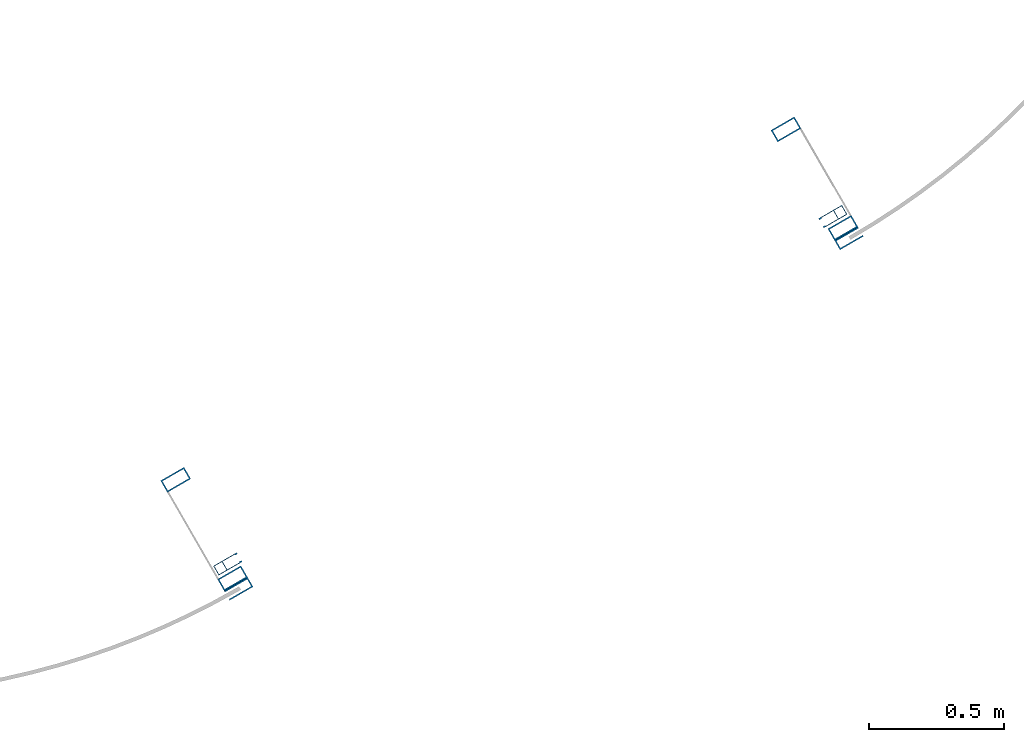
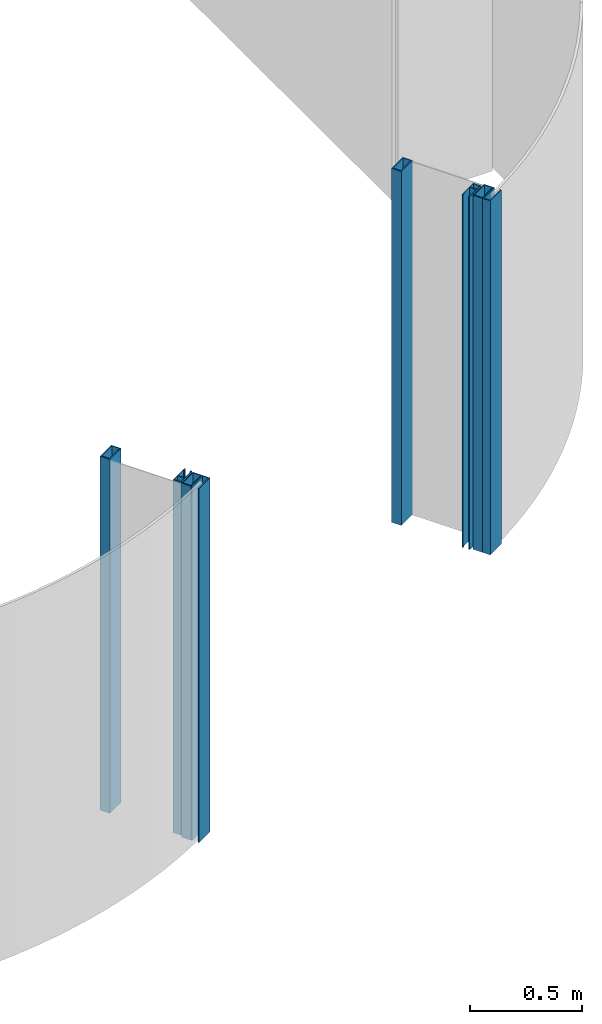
# One storey, part 3 of 11: 8 columns, 4 openings.
"""IFC2X3 building model written with IfcOpenShell, lengths in millimetres."""

from ifc_helpers import new_model, entity, si_unit, converted_unit, derived_unit, direction, frame, frame_2d, origin, origin_with_axes, origin_2d_with_axis, place, context, subcontext, project, spatial, rectangle, extrude, faceted_brep, source, transform, mapped, material, type_object, element, save


model = new_model("IFC2X3")

# Units and contexts
model_context = context("Model", 3, precision=0.01, world=frame((0.0, 4.29681676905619e-09, 0.0)), true_north=direction((4.01073788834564e-13, 1.0)))
plan_context = context("Plan", 3, precision=0.01, world=frame((0.0, 4.29681676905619e-09, 0.0)), true_north=direction((4.01073788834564e-13, 1.0)))
body_context = subcontext(model_context, "Body", "Model", "MODEL_VIEW")
ifc_project = project(units=[converted_unit("PLANEANGLEUNIT", "DEGREE", entity("IfcPositiveLengthMeasure", 0.0174532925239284), si_unit("PLANEANGLEUNIT", "RADIAN"), dimensions=[0, 0, 0, 0, 0, 0, 0]), si_unit("AREAUNIT", "SQUARE_METRE"), si_unit("LENGTHUNIT", "METRE", prefix="MILLI"), si_unit("MASSUNIT", "GRAM", prefix="KILO"), si_unit("POWERUNIT", "WATT"), si_unit("PRESSUREUNIT", "PASCAL"), si_unit("FORCEUNIT", "NEWTON", prefix="KILO"), si_unit("ELECTRICVOLTAGEUNIT", "VOLT"), si_unit("ELECTRICCURRENTUNIT", "AMPERE"), si_unit("THERMODYNAMICTEMPERATUREUNIT", "DEGREE_CELSIUS"), si_unit("TIMEUNIT", "SECOND"), si_unit("VOLUMEUNIT", "CUBIC_METRE"), derived_unit("LINEARVELOCITYUNIT", [(si_unit("LENGTHUNIT", "METRE"), 1), (si_unit("TIMEUNIT", "SECOND"), -1)]), derived_unit("VOLUMETRICFLOWRATEUNIT", [(si_unit("VOLUMEUNIT", "CUBIC_METRE"), 1), (si_unit("TIMEUNIT", "SECOND"), -1)]), derived_unit("THERMALTRANSMITTANCEUNIT", [(si_unit("POWERUNIT", "WATT"), 1), (si_unit("THERMODYNAMICTEMPERATUREUNIT", "KELVIN"), -1), (si_unit("AREAUNIT", "SQUARE_METRE"), -1)]), derived_unit("SOUNDPRESSUREUNIT", [(si_unit("PRESSUREUNIT", "PASCAL"), 1)])], contexts=[model_context, plan_context])

# Site, building, storey
site_placement = place(None, origin_with_axes())
site = spatial("IfcSite", under=ifc_project, at=site_placement, Name="ENGM", CompositionType="ELEMENT")
building_placement = place(site_placement, origin_with_axes())
building = spatial("IfcBuilding", under=site, at=building_placement, Name="TH", CompositionType="ELEMENT")
storey_placement = place(building_placement, frame((0.0, 0.0, 210900.0), z_axis=(0.0, 0.0, 1.0), x_axis=(1.0, 0.0, 0.0)))
storey = spatial("IfcBuildingStorey", under=building, at=storey_placement, Name="Nivå F", CompositionType="ELEMENT", Elevation=210900.0)

# Columns
ifc_material = material(Name="_NSW Stål")
column_type_1 = type_object("IfcColumnType", Name="A243 - Rullegardinskinner:A243 - Portskinne Book Shop", PredefinedType="COLUMN", material=ifc_material)
shared_shape_1 = source(origin(), body_context, "Body", "Brep", [
    faceted_brep([(-14.0, -100.0, 212830.0), (-20.0, -100.0, 212830.0), (-20.0, -100.0, 210900.0), (-14.0, -100.0, 210900.0), (-14.0, -90.0, 212830.0), (-14.0, -90.0, 210900.0), (-17.0, -90.0, 212830.0), (-17.0, -90.0, 210900.0), (-17.0, -38.0, 212830.0), (-17.0, -38.0, 210900.0), (17.0, -38.0, 212830.0), (17.0, -38.0, 210900.0), (17.0, -90.0, 212830.0), (17.0, -90.0, 210900.0), (14.0, -90.0, 212830.0), (14.0, -90.0, 210900.0), (14.0, -100.0, 212830.0), (14.0, -100.0, 210900.0), (20.0, -100.0, 212830.0), (20.0, -100.0, 210900.0), (20.0, 0.0, 212830.0), (20.0, 0.0, 210900.0), (-20.0, 0.0, 212830.0), (-20.0, 0.0, 210900.0), (-17.0, -3.0, 212830.0), (-17.0, -35.0, 212830.0), (-17.0, -35.0, 210900.0), (-17.0, -3.0, 210900.0), (17.0, -3.0, 212830.0), (17.0, -3.0, 210900.0), (17.0, -35.0, 212830.0), (17.0, -35.0, 210900.0)], [[[0, 1, 2, 3]], [[4, 0, 3, 5]], [[6, 4, 5, 7]], [[8, 6, 7, 9]], [[10, 8, 9, 11]], [[12, 10, 11, 13]], [[14, 12, 13, 15]], [[16, 14, 15, 17]], [[18, 16, 17, 19]], [[20, 18, 19, 21]], [[22, 20, 21, 23]], [[1, 22, 23, 2]], [[24, 25, 26, 27]], [[28, 24, 27, 29]], [[30, 28, 29, 31]], [[25, 30, 31, 26]], [[1, 0, 4, 6, 8, 10, 12, 14, 16, 18, 20, 22], [25, 24, 28, 30]], [[3, 2, 23, 21, 19, 17, 15, 13, 11, 9, 7, 5], [27, 26, 31, 29]]]),
])
column_1_placement = place(storey_placement, frame((908874.102285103, 478210.13855746, -210900.0), z_axis=(0.0, 0.0, 1.0), x_axis=(0.499999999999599, -0.86602540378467, 0.0)))
element("IfcColumn", 1, at=column_1_placement, inside=storey, type_object=column_type_1, material=ifc_material, Name="A243 - Rullegardinskinner:A243 - Portskinne Book Shop", ObjectType="A243 - Rullegardinskinner:A243 - Portskinne Book Shop", context=body_context, shape_type="MappedRepresentation", body=[
    mapped(shared_shape_1, transform((0.0, 0.0, 0.0), scale=1.0)),
])
column_type_2 = type_object("IfcColumnType", Name="A241 - Glassramme Book Shop:A241 - 100x40mm", PredefinedType="COLUMN", material=ifc_material)
shared_shape_2 = source(origin(), body_context, "Body", "Brep", [
    faceted_brep([(-20.0, 50.0, 212835.0), (-15.0, 50.0, 212835.0), (-15.0, 50.0, 210900.0), (-20.0, 50.0, 210900.0), (-15.0, -45.0, 212835.0), (-15.0, -45.0, 210900.0), (15.0, -45.0, 212835.0), (15.0, -45.0, 210900.0), (15.0, 50.0, 212835.0), (15.0, 50.0, 210900.0), (20.0, 50.0, 212835.0), (20.0, 50.0, 210900.0), (20.0, -50.0, 212835.0), (20.0, -50.0, 210900.0), (-20.0, -50.0, 212835.0), (-20.0, -50.0, 210900.0)], [[[0, 1, 2, 3]], [[1, 4, 5, 2]], [[4, 6, 7, 5]], [[6, 8, 9, 7]], [[8, 10, 11, 9]], [[10, 12, 13, 11]], [[12, 14, 15, 13]], [[14, 0, 3, 15]], [[1, 0, 14, 12, 10, 8, 6, 4]], [[3, 2, 5, 7, 9, 11, 13, 15]]]),
])
column_2_placement = place(storey_placement, frame((908890.455786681, 478104.15850772, -210900.0), z_axis=(0.0, 0.0, 1.0), x_axis=(0.499999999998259, -0.866025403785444, 0.0)))
element("IfcColumn", 2, at=column_2_placement, inside=storey, type_object=column_type_2, material=ifc_material, Name="A241 - Glassramme Book Shop:A241 - 100x40mm", ObjectType="A241 - Glassramme Book Shop:A241 - 100x40mm", context=body_context, shape_type="MappedRepresentation", body=[
    mapped(shared_shape_2, transform((0.0, 0.0, 0.0), scale=1.0)),
])

# Column, opening
column_type_3 = type_object("IfcColumnType", Name="B222 - HUP7:B222 - HUP 100x50x5", PredefinedType="COLUMN", material=ifc_material)
shared_shape_3 = source(origin(), body_context, "Body", "SweptSolid", [
    extrude(rectangle(XDim=1934.99999999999, YDim=100.0, at=frame_2d((1.73372427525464e-11, 0.0), x_axis=(1.0, 0.0))), frame((-25.0, 0.0, 211867.5), z_axis=(1.0, 0.0, 0.0), x_axis=(0.0, 0.0, -1.0)), (0.0, 0.0, 1.0), 50.0),
])
column_3_placement = place(storey_placement, frame((908657.956971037, 478506.858269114, -210900.0), z_axis=(0.0, 0.0, 1.0), x_axis=(-0.500000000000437, 0.866025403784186, 0.0)))
column_3 = element("IfcColumn", 3, at=column_3_placement, inside=storey, type_object=column_type_3, material=ifc_material, Name="B222 - HUP7:B222 - HUP 100x50x5", ObjectType="B222 - HUP7:B222 - HUP 100x50x5", context=body_context, shape_type="MappedRepresentation", body=[
    mapped(shared_shape_3, transform((0.0, 0.0, 0.0), scale=1.0)),
])
opening_1_placement = place(column_3_placement, frame((0.0, 0.0, 210900.0), z_axis=(0.0, 0.0, 1.0), x_axis=(-0.500000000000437, 0.866025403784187, 0.0)))
element("IfcOpeningElement", 4, at=opening_1_placement, cuts=column_3, Name="B222 - HUP7:B222 - HUP 100x50x5:1", ObjectType="Opening", context=body_context, shape_type="SweptSolid", body=[
    extrude(rectangle(XDim=90.0, YDim=39.9999999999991, at=origin_2d_with_axis()), frame((0.0, 0.0, 0.0), z_axis=(0.0, 0.0, 1.0), x_axis=(0.866025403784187, -0.500000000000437, 0.0)), (0.0, 0.0, 1.0), 1934.99999999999),
])

column_type_4 = type_object("IfcColumnType", Name="B222 - HUP7:B222 - HUP 100x50x5", PredefinedType="COLUMN", material=ifc_material)
shared_shape_4 = source(origin(), body_context, "Body", "SweptSolid", [
    extrude(rectangle(XDim=1934.99999999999, YDim=100.0, at=frame_2d((1.73372427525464e-11, 0.0), x_axis=(1.0, 0.0))), frame((-25.0, 0.0, 211867.5), z_axis=(1.0, 0.0, 0.0), x_axis=(0.0, 0.0, -1.0)), (0.0, 0.0, 1.0), 50.0),
])
column_4_placement = place(storey_placement, frame((908867.955786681, 478143.12965089, -210900.0), z_axis=(0.0, 0.0, 1.0), x_axis=(-0.500000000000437, 0.866025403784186, 0.0)))
column_4 = element("IfcColumn", 5, at=column_4_placement, inside=storey, type_object=column_type_4, material=ifc_material, Name="B222 - HUP7:B222 - HUP 100x50x5", ObjectType="B222 - HUP7:B222 - HUP 100x50x5", context=body_context, shape_type="MappedRepresentation", body=[
    mapped(shared_shape_4, transform((0.0, 0.0, 0.0), scale=1.0)),
])
opening_2_placement = place(column_4_placement, frame((0.0, 0.0, 210900.0), z_axis=(0.0, 0.0, 1.0), x_axis=(-0.500000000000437, 0.866025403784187, 0.0)))
element("IfcOpeningElement", 6, at=opening_2_placement, cuts=column_4, Name="B222 - HUP7:B222 - HUP 100x50x5:1", ObjectType="Opening", context=body_context, shape_type="SweptSolid", body=[
    extrude(rectangle(XDim=90.0, YDim=39.9999999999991, at=origin_2d_with_axis()), frame((0.0, 0.0, 1935.0), z_axis=(0.0, 0.0, -1.0), x_axis=(-0.866025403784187, 0.500000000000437, 0.0)), (0.0, 0.0, 1.0), 1934.99999999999),
])

column_type_5 = type_object("IfcColumnType", Name="B222 - HUP7:B222 - HUP 100x50x5", PredefinedType="COLUMN", material=ifc_material)
column_5_placement = place(storey_placement, frame((906404.93565808, 477213.20565369, -210900.0), z_axis=(0.0, 0.0, 1.0), x_axis=(-0.500000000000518, 0.86602540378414, 0.0)))
column_5 = element("IfcColumn", 7, at=column_5_placement, inside=storey, type_object=column_type_5, material=ifc_material, Name="B222 - HUP7:B222 - HUP 100x50x5", ObjectType="B222 - HUP7:B222 - HUP 100x50x5", context=body_context, shape_type="MappedRepresentation", body=[
    mapped(shared_shape_4, transform((0.0, 0.0, 0.0), scale=1.0)),
])
opening_3_placement = place(column_5_placement, frame((0.0, 0.0, 210900.0), z_axis=(0.0, 0.0, 1.0), x_axis=(-0.500000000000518, 0.86602540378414, 0.0)))
element("IfcOpeningElement", 8, at=opening_3_placement, cuts=column_5, Name="B222 - HUP7:B222 - HUP 100x50x5:1", ObjectType="Opening", context=body_context, shape_type="SweptSolid", body=[
    extrude(rectangle(XDim=90.0, YDim=39.9999999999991, at=origin_2d_with_axis()), frame((0.0, 0.0, 1935.0), z_axis=(0.0, 0.0, -1.0), x_axis=(-0.86602540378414, 0.500000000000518, 0.0)), (0.0, 0.0, 1.0), 1934.99999999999),
])

column_type_6 = type_object("IfcColumnType", Name="B222 - HUP7:B222 - HUP 100x50x5", PredefinedType="COLUMN", material=ifc_material)
column_6_placement = place(storey_placement, frame((906614.934473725, 476849.477035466, -210900.0), z_axis=(0.0, 0.0, 1.0), x_axis=(-0.500000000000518, 0.86602540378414, 0.0)))
column_6 = element("IfcColumn", 9, at=column_6_placement, inside=storey, type_object=column_type_6, material=ifc_material, Name="B222 - HUP7:B222 - HUP 100x50x5", ObjectType="B222 - HUP7:B222 - HUP 100x50x5", context=body_context, shape_type="MappedRepresentation", body=[
    mapped(shared_shape_4, transform((0.0, 0.0, 0.0), scale=1.0)),
])
opening_4_placement = place(column_6_placement, frame((0.0, 0.0, 210900.0), z_axis=(0.0, 0.0, 1.0), x_axis=(-0.500000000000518, 0.86602540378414, 0.0)))
element("IfcOpeningElement", 10, at=opening_4_placement, cuts=column_6, Name="B222 - HUP7:B222 - HUP 100x50x5:1", ObjectType="Opening", context=body_context, shape_type="SweptSolid", body=[
    extrude(rectangle(XDim=90.0, YDim=39.9999999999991, at=origin_2d_with_axis()), frame((0.0, 0.0, 1935.0), z_axis=(0.0, 0.0, -1.0), x_axis=(-0.86602540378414, 0.500000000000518, 0.0)), (0.0, 0.0, 1.0), 1934.99999999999),
])

# Columns
column_type_7 = type_object("IfcColumnType", Name="A243 - Rullegardinskinner:A243 - Portskinne Book Shop", PredefinedType="COLUMN", material=ifc_material)
shared_shape_5 = source(origin(), body_context, "Body", "Brep", [
    faceted_brep([(-20.0, 100.0, 212830.0), (-14.0, 100.0, 212830.0), (-14.0, 100.0, 210900.0), (-20.0, 100.0, 210900.0), (-14.0, 90.0, 212830.0), (-14.0, 90.0, 210900.0), (-17.0, 90.0, 212830.0), (-17.0, 90.0, 210900.0), (-17.0, 38.0, 212830.0), (-17.0, 38.0, 210900.0), (17.0, 38.0, 212830.0), (17.0, 38.0, 210900.0), (17.0, 90.0, 212830.0), (17.0, 90.0, 210900.0), (14.0, 90.0, 212830.0), (14.0, 90.0, 210900.0), (14.0, 100.0, 212830.0), (14.0, 100.0, 210900.0), (20.0, 100.0, 212830.0), (20.0, 100.0, 210900.0), (20.0, 0.0, 212830.0), (20.0, 0.0, 210900.0), (-20.0, 0.0, 212830.0), (-20.0, 0.0, 210900.0), (-17.0, 35.0, 212830.0), (-17.0, 3.0, 212830.0), (-17.0, 3.0, 210900.0), (-17.0, 35.0, 210900.0), (17.0, 3.0, 212830.0), (17.0, 3.0, 210900.0), (17.0, 35.0, 212830.0), (17.0, 35.0, 210900.0)], [[[0, 1, 2, 3]], [[1, 4, 5, 2]], [[4, 6, 7, 5]], [[6, 8, 9, 7]], [[8, 10, 11, 9]], [[10, 12, 13, 11]], [[12, 14, 15, 13]], [[14, 16, 17, 15]], [[16, 18, 19, 17]], [[18, 20, 21, 19]], [[20, 22, 23, 21]], [[22, 0, 3, 23]], [[24, 25, 26, 27]], [[25, 28, 29, 26]], [[28, 30, 31, 29]], [[30, 24, 27, 31]], [[1, 0, 22, 20, 18, 16, 14, 12, 10, 8, 6, 4], [25, 24, 30, 28]], [[3, 2, 5, 7, 9, 11, 13, 15, 17, 19, 21, 23], [27, 26, 29, 31]]]),
])
column_7_placement = place(storey_placement, frame((906553.829809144, 476877.658464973, -210900.0), z_axis=(0.0, 0.0, 1.0), x_axis=(0.500000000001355, -0.866025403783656, 0.0)))
element("IfcColumn", 11, at=column_7_placement, inside=storey, type_object=column_type_7, material=ifc_material, Name="A243 - Rullegardinskinner:A243 - Portskinne Book Shop", ObjectType="A243 - Rullegardinskinner:A243 - Portskinne Book Shop", context=body_context, shape_type="MappedRepresentation", body=[
    mapped(shared_shape_5, transform((0.0, 0.0, 0.0), scale=1.0)),
])
column_type_8 = type_object("IfcColumnType", Name="A241 - Glassramme Book Shop:A241 - 100x40mm", PredefinedType="COLUMN", material=ifc_material)
shared_shape_6 = source(origin(), body_context, "Body", "Brep", [
    faceted_brep([(-15.0, -50.0, 212835.0), (-20.0, -50.0, 212835.0), (-20.0, -50.0, 210900.0), (-15.0, -50.0, 210900.0), (-15.0, 45.0, 212835.0), (-15.0, 45.0, 210900.0), (15.0, 45.0, 212835.0), (15.0, 45.0, 210900.0), (15.0, -50.0, 212835.0), (15.0, -50.0, 210900.0), (20.0, -50.0, 212835.0), (20.0, -50.0, 210900.0), (20.0, 50.0, 212835.0), (20.0, 50.0, 210900.0), (-20.0, 50.0, 212835.0), (-20.0, 50.0, 210900.0)], [[[0, 1, 2, 3]], [[4, 0, 3, 5]], [[6, 4, 5, 7]], [[8, 6, 7, 9]], [[10, 8, 9, 11]], [[12, 10, 11, 13]], [[14, 12, 13, 15]], [[1, 14, 15, 2]], [[1, 0, 4, 6, 8, 10, 12, 14]], [[3, 2, 15, 13, 11, 9, 7, 5]]]),
])
column_8_placement = place(storey_placement, frame((906637.434473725, 476810.505892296, -210900.0), z_axis=(0.0, 0.0, 1.0), x_axis=(0.500000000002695, -0.866025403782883, 0.0)))
element("IfcColumn", 12, at=column_8_placement, inside=storey, type_object=column_type_8, material=ifc_material, Name="A241 - Glassramme Book Shop:A241 - 100x40mm", ObjectType="A241 - Glassramme Book Shop:A241 - 100x40mm", context=body_context, shape_type="MappedRepresentation", body=[
    mapped(shared_shape_6, transform((0.0, 0.0, 0.0), scale=1.0)),
])

save(model, "model.ifc")
